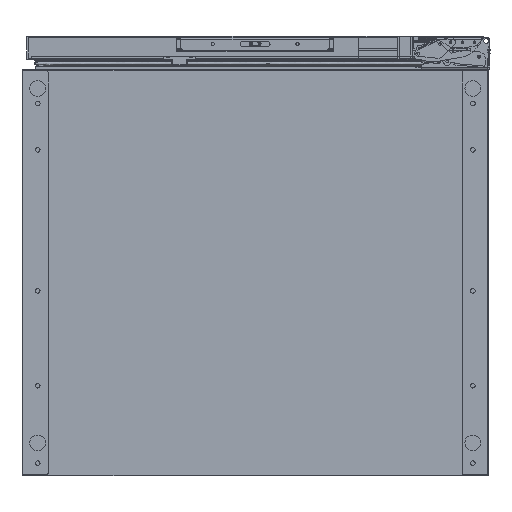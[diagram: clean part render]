
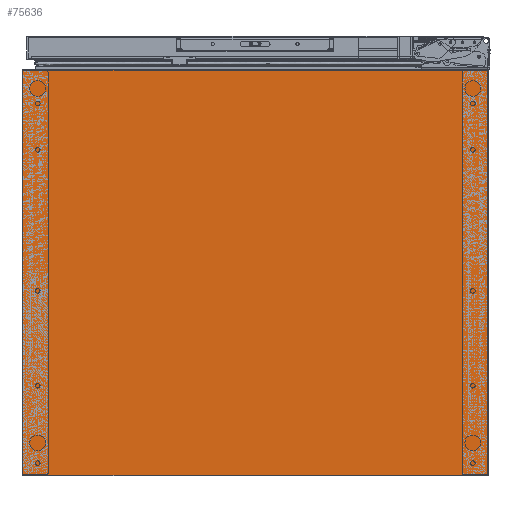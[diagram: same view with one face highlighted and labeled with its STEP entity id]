
A CAD part, front view. The second image highlights one B-rep face of the part: STEP entity #75636.
In plain terms, the highlighted planar face has unit normal (0, -1, 0).
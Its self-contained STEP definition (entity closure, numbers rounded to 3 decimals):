
#75557=DIRECTION('',(-1.,0.,0.));
#75558=VECTOR('',#75557,592.8);
#75559=CARTESIAN_POINT('',(296.4,-1780.,258.4));
#75560=LINE('',#75559,#75558);
#75561=DIRECTION('',(0.,0.,1.));
#75562=VECTOR('',#75561,516.8);
#75563=CARTESIAN_POINT('',(296.4,-1780.,-258.4));
#75564=LINE('',#75563,#75562);
#75565=DIRECTION('',(1.,0.,0.));
#75566=VECTOR('',#75565,592.8);
#75567=CARTESIAN_POINT('',(-296.4,-1780.,-258.4));
#75568=LINE('',#75567,#75566);
#75569=DIRECTION('',(0.,0.,-1.));
#75570=VECTOR('',#75569,516.8);
#75571=CARTESIAN_POINT('',(-296.4,-1780.,258.4));
#75572=LINE('',#75571,#75570);
#75605=CARTESIAN_POINT('',(296.4,-1780.,258.4));
#75606=CARTESIAN_POINT('',(-296.4,-1780.,258.4));
#75607=VERTEX_POINT('',#75605);
#75608=VERTEX_POINT('',#75606);
#75609=CARTESIAN_POINT('',(-296.4,-1780.,-258.4));
#75610=VERTEX_POINT('',#75609);
#75611=CARTESIAN_POINT('',(296.4,-1780.,-258.4));
#75612=VERTEX_POINT('',#75611);
#75621=CARTESIAN_POINT('',(0.,-1780.,0.));
#75622=DIRECTION('',(0.,-1.,0.));
#75623=DIRECTION('',(-1.,0.,0.));
#75624=AXIS2_PLACEMENT_3D('',#75621,#75622,#75623);
#75625=PLANE('',#75624);
#75627=ORIENTED_EDGE('',*,*,#75626,.F.);
#75629=ORIENTED_EDGE('',*,*,#75628,.F.);
#75631=ORIENTED_EDGE('',*,*,#75630,.F.);
#75633=ORIENTED_EDGE('',*,*,#75632,.F.);
#75634=EDGE_LOOP('',(#75627,#75629,#75631,#75633));
#75635=FACE_OUTER_BOUND('',#75634,.F.);
#75636=ADVANCED_FACE('',(#75635),#75625,.T.);
#75626=EDGE_CURVE('',#75607,#75608,#75560,.T.);
#75628=EDGE_CURVE('',#75612,#75607,#75564,.T.);
#75630=EDGE_CURVE('',#75610,#75612,#75568,.T.);
#75632=EDGE_CURVE('',#75608,#75610,#75572,.T.);
